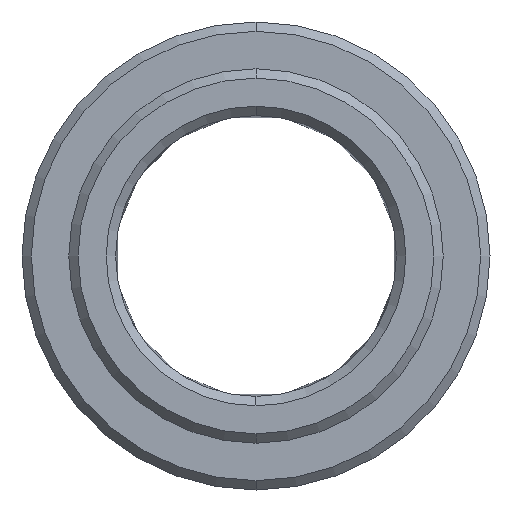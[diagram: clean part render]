
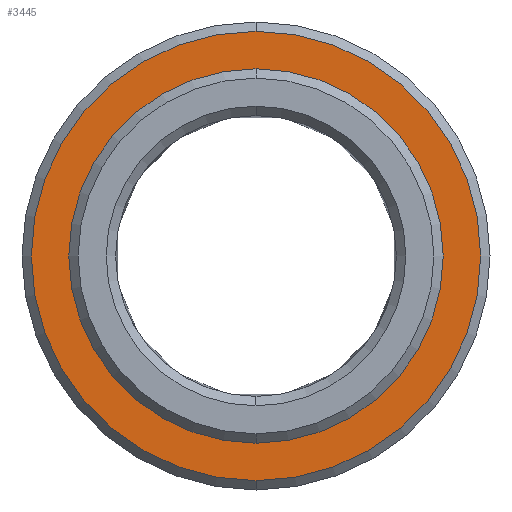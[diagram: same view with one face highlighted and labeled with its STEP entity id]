
A CAD part, left-side view. The second image highlights one B-rep face of the part: STEP entity #3445.
In plain terms, the highlighted planar face has unit normal (-1, 0, 0).
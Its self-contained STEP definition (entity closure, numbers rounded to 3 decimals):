
#2034=CARTESIAN_POINT('',(0.,0.,0.));
#2035=DIRECTION('',(1.,0.,0.));
#2036=DIRECTION('',(0.,0.,1.));
#2037=AXIS2_PLACEMENT_3D('',#2034,#2035,#2036);
#2039=CARTESIAN_POINT('',(0.,0.,0.));
#2040=DIRECTION('',(-1.,0.,0.));
#2041=DIRECTION('',(0.,0.,1.));
#2042=AXIS2_PLACEMENT_3D('',#2039,#2040,#2041);
#2044=CARTESIAN_POINT('',(0.,0.,
0.));
#2045=DIRECTION('',(1.,0.,0.));
#2046=DIRECTION('',(0.,0.,-1.));
#2047=AXIS2_PLACEMENT_3D('',#2044,#2045,#2046);
#2049=CARTESIAN_POINT('',(0.,0.,0.));
#2050=DIRECTION('',(1.,0.,0.));
#2051=DIRECTION('',(0.,0.,1.));
#2052=AXIS2_PLACEMENT_3D('',#2049,#2050,#2051);
#2268=CARTESIAN_POINT('',(0.,0.,-12.));
#2269=CARTESIAN_POINT('',(0.,0.,12.));
#2270=VERTEX_POINT('',#2268);
#2271=VERTEX_POINT('',#2269);
#2276=CARTESIAN_POINT('',(0.,0.,10.));
#2277=CARTESIAN_POINT('',(0.,0.,-10.));
#2278=VERTEX_POINT('',#2276);
#2279=VERTEX_POINT('',#2277);
#3430=CARTESIAN_POINT('',(0.,0.,0.));
#3431=DIRECTION('',(1.,0.,0.));
#3432=DIRECTION('',(0.,0.,1.));
#3433=AXIS2_PLACEMENT_3D('',#3430,#3431,#3432);
#3434=PLANE('',#3433);
#3435=ORIENTED_EDGE('',*,*,#3410,.T.);
#3436=ORIENTED_EDGE('',*,*,#3424,.T.);
#3437=EDGE_LOOP('',(#3435,#3436));
#3438=FACE_OUTER_BOUND('',#3437,.F.);
#3440=ORIENTED_EDGE('',*,*,#3439,.F.);
#3442=ORIENTED_EDGE('',*,*,#3441,.T.);
#3443=EDGE_LOOP('',(#3440,#3442));
#3444=FACE_BOUND('',#3443,.F.);
#3445=ADVANCED_FACE('',(#3438,#3444),#3434,.F.);
#2038=CIRCLE('',#2037,10.);
#2043=CIRCLE('',#2042,10.);
#2048=CIRCLE('',#2047,12.);
#2053=CIRCLE('',#2052,12.);
#3410=EDGE_CURVE('',#2270,#2271,#2048,.T.);
#3424=EDGE_CURVE('',#2271,#2270,#2053,.T.);
#3439=EDGE_CURVE('',#2278,#2279,#2038,.T.);
#3441=EDGE_CURVE('',#2278,#2279,#2043,.T.);
